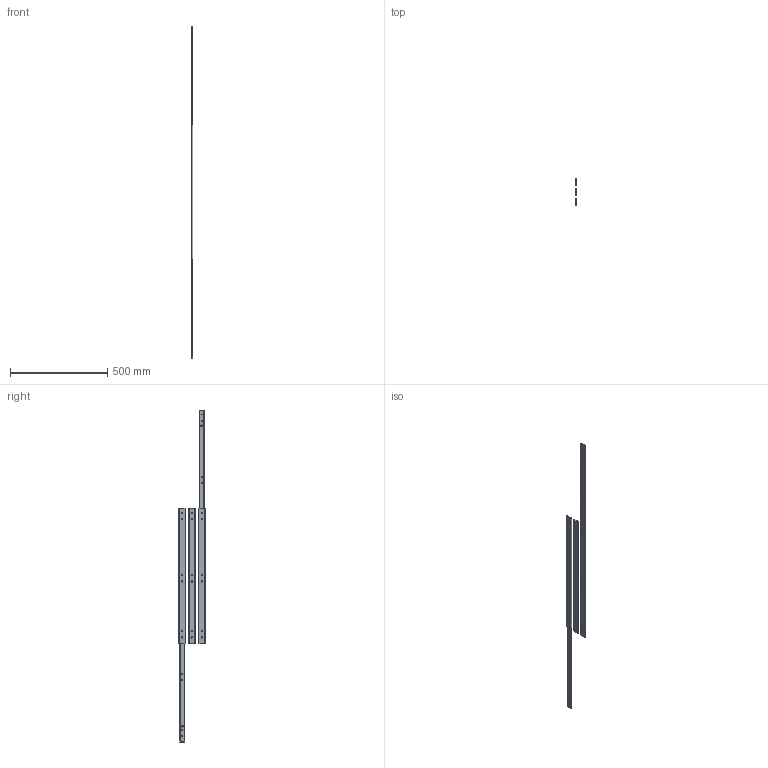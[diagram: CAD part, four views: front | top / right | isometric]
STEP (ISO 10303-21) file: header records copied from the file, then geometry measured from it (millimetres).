
FILE_DESCRIPTION((''),'2;1');
FILE_NAME('D:\01 WORK\DIST\02172A-Drawings for website\2026\DZ2026\STEP\2026-0070 3d open & closed for website.stp','2012-10-03T14:51:21',('jthatch'),(''),'Autodesk Inventor 2012','Autodesk Inventor 2012','');
FILE_SCHEMA(('AUTOMOTIVE_DESIGN { 1 0 10303 214 1 1 1 1 }'));
Length unit declared in the file: millimetre
Products named in the file (3): 2026-0070 3d open & closed for website; 2026-0070 3d Outer member for website; 2026-0070  3d Inner member for website
Assembly tree (6 placements, depth 2):
  2026-0070 3d open & closed for website
    2026-0070 3d Outer member for website  x3
    2026-0070  3d Inner member for website  x3
Bounding box: 9.5 x 135.28 x 1709.4 mm (x, y, z)
Volume: 236497.2 mm3; surface area: 352972.7 mm2
Topology: 6 solids, 6 shells, 216 faces, 615 edges, 411 vertices
Faces by surface type: plane 132, cylinder 84
Full cylindrical faces by diameter (mm): 4.3 x6, 10 x6
Entity records: 2494 total; most frequent: DIRECTION 418, CARTESIAN_POINT 417, ORIENTED_EDGE 400, EDGE_CURVE 200, VECTOR 144, LINE 144, AXIS2_PLACEMENT_3D 137, VERTEX_POINT 136
